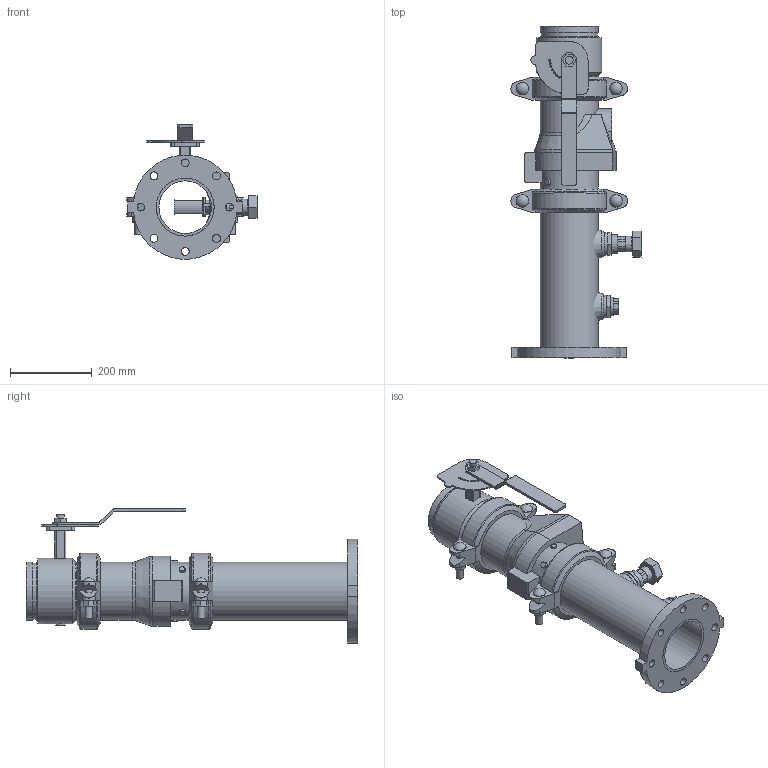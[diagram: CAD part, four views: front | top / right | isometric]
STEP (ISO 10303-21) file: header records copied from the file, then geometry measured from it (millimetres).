
FILE_DESCRIPTION(/* description */ ('VIC DVI PUMP DROP VERT S/380 (OGSxFLG) (S/924-1.25)','CAx-IF Rec.Pracs.---Representation and Presentation of Product Manufacturing Information (PMI)---4.0---2014-10-13'),/* implementation_level */ '2;1');
FILE_NAME(/* name */ 'C:\Users\Public\Documents\Victaulic.Temp\A765\Victaulic_IPS_Vertical DVI_CL 150_Series 380 (OGSxFLG)_924 (1.25)_05.0x05.0 (125x125).stp',/* time_stamp */ '2022-07-25T11:11:51+02:00',/* author */ ('Vjadhav'),/* organization */ ('Victaulic'),/* preprocessor_version */ 'ST-DEVELOPER v18',/* originating_system */ 'Autodesk Inventor 2020',/* authorisation */ '');
FILE_SCHEMA (('AP242_MANAGED_MODEL_BASED_3D_ENGINEERING_MIM_LF { 1 0 10303 442 1 1 4 }'));
Length unit declared in the file: inch
Products named in the file (8): 380_924 (1.25)-05.0x05.0; 741-05.0; Pipe-05.0x05.0; 177N-05.0; 761-05.0; 779-05.0; 923-04.0x0.75; 924-04.0x01.25
Assembly tree (8 placements, depth 2):
  380_924 (1.25)-05.0x05.0
    741-05.0
    Pipe-05.0x05.0
    177N-05.0  x2
    761-05.0
    779-05.0
    923-04.0x0.75
    924-04.0x01.25
Bounding box: 317.31 x 809.62 x 326.93 mm (x, y, z)
Volume: 7081834.1 mm3; surface area: 1254843.6 mm2
Topology: 8 solids, 10 shells, 498 faces, 1286 edges, 861 vertices
Faces by surface type: plane 294, cylinder 170, cone 14, torus 14, sphere 4, bspline 2
Full cylindrical faces by diameter (mm): 4.826 x10, 8.636 x4, 13.716 x4, 17.78 x4, 19.05 x10, 21.336 x1, 22.86 x1, 26.67 x2, 30.48 x4, 38.608 x1, 42.164 x1, 45.974 x4, 48.514 x1, 55.118 x1, 55.626 x2, 128.194 x3, 128.6 x2, 137.033 x6, 141.3 x16, 160.02 x1
Entity records: 13871 total; most frequent: CARTESIAN_POINT 2765, DIRECTION 2280, ORIENTED_EDGE 2090, EDGE_CURVE 1045, AXIS2_PLACEMENT_3D 856, VERTEX_POINT 701, LINE 568, VECTOR 568
